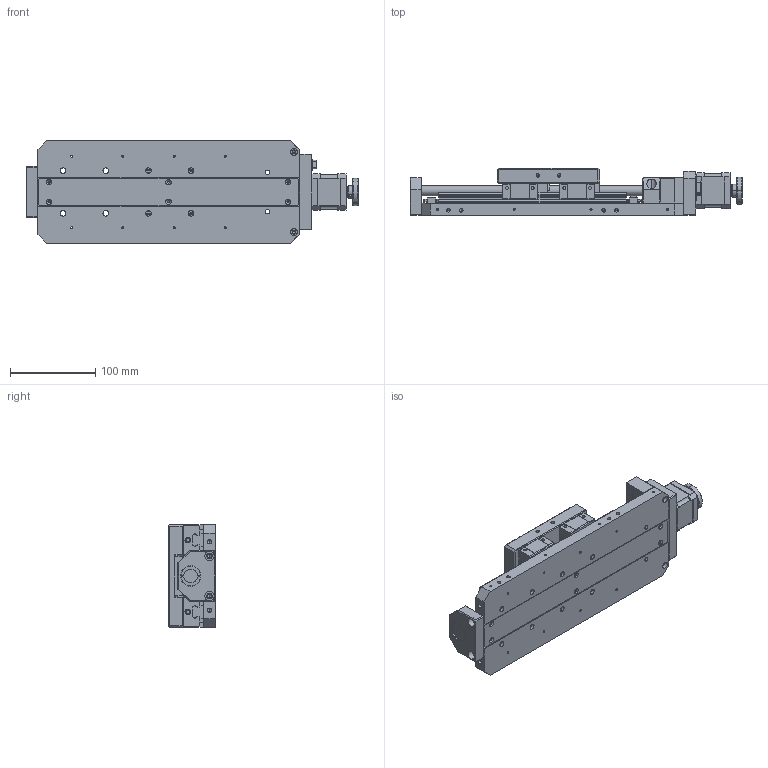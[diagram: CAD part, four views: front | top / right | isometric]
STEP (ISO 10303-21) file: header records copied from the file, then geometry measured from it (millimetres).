
FILE_DESCRIPTION (( 'STEP AP214' ), '1' );
FILE_NAME ('PT-GD140G(100).STEP', '2022-09-18T02:45:44', ( '' ), ( '' ), 'SwSTEP 2.0', 'SolidWorks 2017', '' );
FILE_SCHEMA (( 'AUTOMOTIVE_DESIGN' ));
Length unit declared in the file: millimetre
Products named in the file (1): PT-GD140G(100)
Bounding box: 389 x 55 x 120 mm (x, y, z)
Volume: 1075574.8 mm3; surface area: 333076 mm2
Topology: 35 solids, 35 shells, 2663 faces, 7493 edges, 4840 vertices
Faces by surface type: plane 1107, cylinder 993, bspline 333, cone 213, torus 17
Entity records: 120971 total; most frequent: CARTESIAN_POINT 35604, ORIENTED_EDGE 14482, DIRECTION 12502, EDGE_CURVE 7241, VERTEX_POINT 4836, AXIS2_PLACEMENT_3D 4480, LINE 3542, VECTOR 3542
